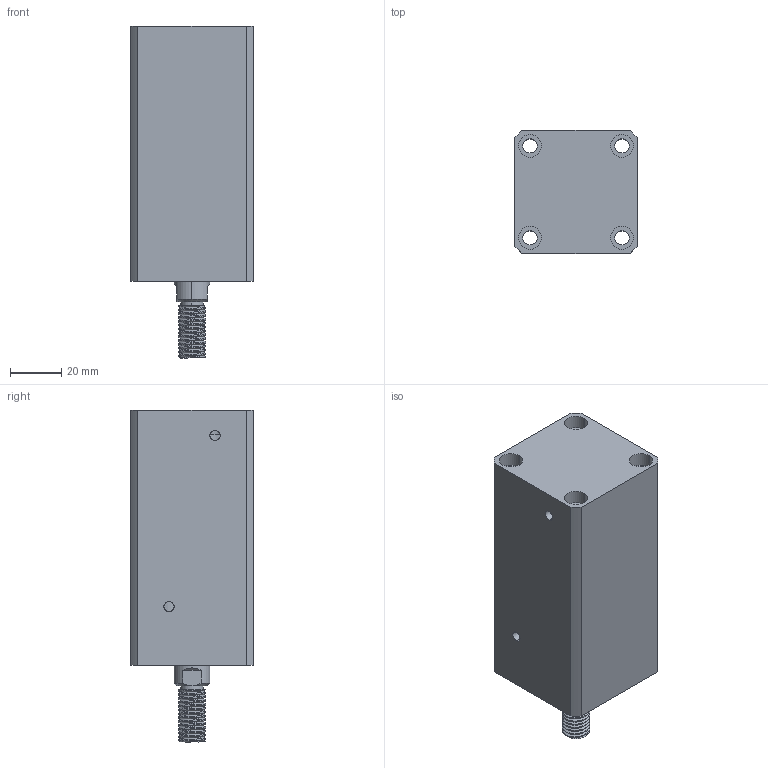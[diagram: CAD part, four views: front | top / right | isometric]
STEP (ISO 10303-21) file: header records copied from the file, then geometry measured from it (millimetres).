
FILE_DESCRIPTION (( 'STEP AP214' ), '1' );
FILE_NAME ('chtb-sdma25x55w_asm.STEP', '2018-05-22T07:36:34', ( 'Windows' ), ( 'Microsoft' ), 'SwSTEP 2.0', 'SolidWorks 2015', '' );
FILE_SCHEMA (( 'AUTOMOTIVE_DESIGN' ));
Length unit declared in the file: millimetre
Products named in the file (4): CHTB-SDMA25X55WHSG; CHTB-SDMA25X55NBT; CHTB-25QG; chtb-sdma25x55w_asm
Assembly tree (3 placements, depth 2):
  chtb-sdma25x55w_asm
    CHTB-25QG
    CHTB-SDMA25X55NBT
    CHTB-SDMA25X55WHSG
Bounding box: 48 x 48 x 130 mm (x, y, z)
Volume: 199826.9 mm3; surface area: 51661.7 mm2
Topology: 3 solids, 3 shells, 177 faces, 479 edges, 325 vertices
Faces by surface type: cylinder 117, plane 38, bspline 12, cone 10
Entity records: 10676 total; most frequent: CARTESIAN_POINT 6329, ORIENTED_EDGE 950, DIRECTION 772, EDGE_CURVE 475, VERTEX_POINT 325, AXIS2_PLACEMENT_3D 312, EDGE_LOOP 216, FACE_OUTER_BOUND 177
